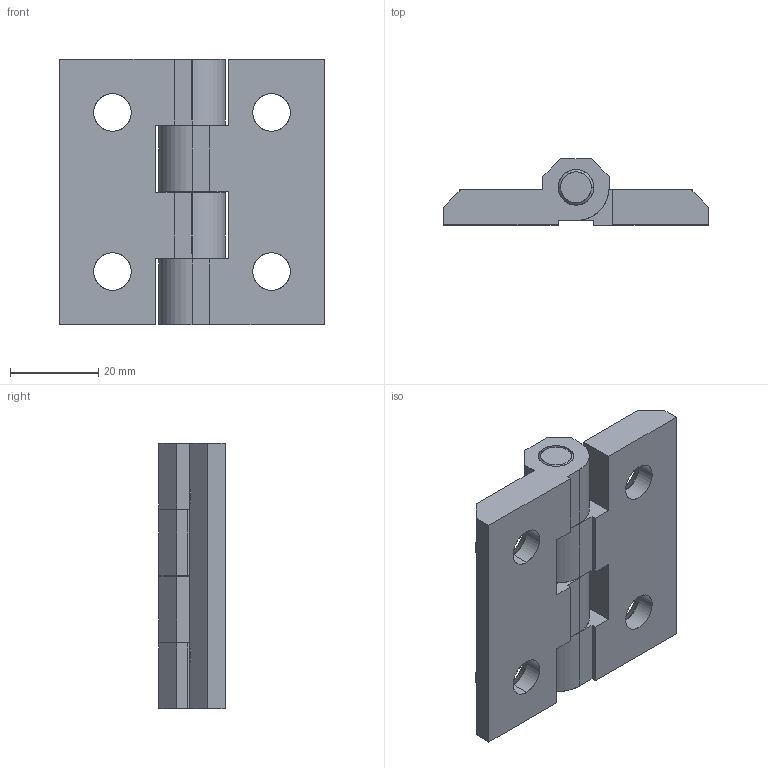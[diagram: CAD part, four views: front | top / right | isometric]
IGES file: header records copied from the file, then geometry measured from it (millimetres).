
Start section: SolidWorks IGES file using analytic representation for surfaces
Global section: file name: C:\Users\cbrechard\Desktop\CM 60.IGS; native system: SolidWorks 2017; preprocessor: SolidWorks 2017; author: cbrechard; date: 180309.110139; units: millimetre
Bounding box: 60 x 15 x 60 mm (x, y, z)
Surface area: 16093.8 mm2 (no closed solid volume)
Topology: 0 solids, 0 shells, 110 faces, 2118 edges, 2118 vertices
Faces by surface type: bspline 64, revolution 46
